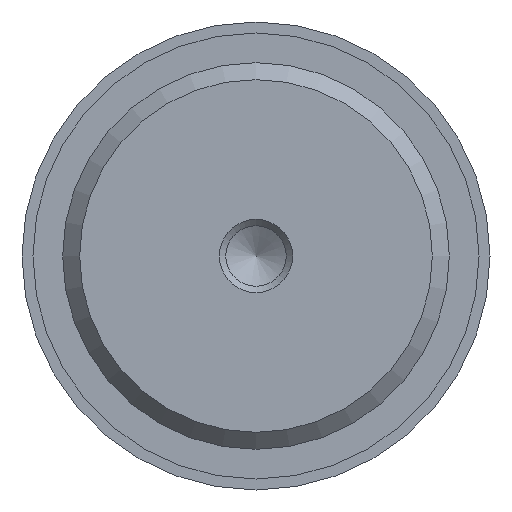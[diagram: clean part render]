
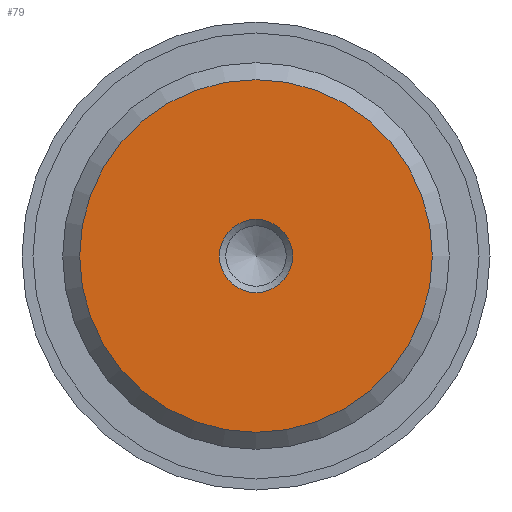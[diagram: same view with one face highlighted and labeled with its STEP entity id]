
A CAD part, front view. The second image highlights one B-rep face of the part: STEP entity #79.
In plain terms, the highlighted planar face has unit normal (0, -1, 0).
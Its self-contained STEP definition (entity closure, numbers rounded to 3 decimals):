
#79 = ADVANCED_FACE( '', ( #123, #124 ), #125, .F. );
#123 = FACE_BOUND( '', #206, .T. );
#124 = FACE_OUTER_BOUND( '', #207, .T. );
#125 = PLANE( '', #208 );
#206 = EDGE_LOOP( '', ( #303 ) );
#207 = EDGE_LOOP( '', ( #304 ) );
#208 = AXIS2_PLACEMENT_3D( '', #305, #306, #307 );
#303 = ORIENTED_EDGE( '', *, *, #522, .F. );
#304 = ORIENTED_EDGE( '', *, *, #526, .T. );
#305 = CARTESIAN_POINT( '', ( 12.059, 0., 0. ) );
#306 = DIRECTION( '', ( 0., 1., 0. ) );
#307 = DIRECTION( '', ( 0., 0., 1. ) );
#522 = EDGE_CURVE( '', #594, #594, #595, .T. );
#526 = EDGE_CURVE( '', #600, #600, #601, .T. );
#594 = VERTEX_POINT( '', #715 );
#595 = CIRCLE( '', #716, 2.5 );
#600 = VERTEX_POINT( '', #721 );
#601 = CIRCLE( '', #722, 12.059 );
#715 = CARTESIAN_POINT( '', ( 2.5, 0., 0. ) );
#716 = AXIS2_PLACEMENT_3D( '', #901, #902, #903 );
#721 = CARTESIAN_POINT( '', ( 0., 0., -12.059 ) );
#722 = AXIS2_PLACEMENT_3D( '', #910, #911, #912 );
#901 = CARTESIAN_POINT( '', ( 0., 0., 0. ) );
#902 = DIRECTION( '', ( 0., -1., 0. ) );
#903 = DIRECTION( '', ( 1., 0., 0. ) );
#910 = CARTESIAN_POINT( '', ( 0., 0., 0. ) );
#911 = DIRECTION( '', ( 0., -1., 0. ) );
#912 = DIRECTION( '', ( 0., 0., -1. ) );
